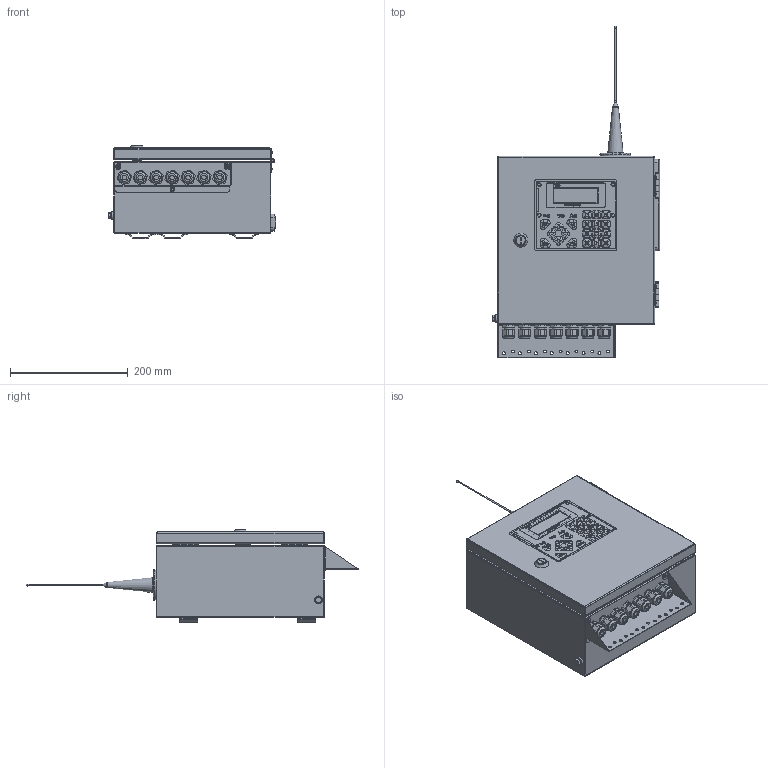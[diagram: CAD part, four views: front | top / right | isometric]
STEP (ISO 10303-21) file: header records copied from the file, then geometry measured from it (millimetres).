
FILE_DESCRIPTION(('STEP AP214'), '1');
FILE_NAME('023.000.000 ÑÁ Ñèñòåìíûé áëîê', '2015-07-24T11:53:29', (' '), (''), 'ASCON STEP Converter 1.3', 'ASCON Math Kernel', '');
FILE_SCHEMA(('AUTOMOTIVE_DESIGN { 1 0 10303 214 3 1 1}'));
Length unit declared in the file: millimetre
Products named in the file (60): 7; 8; 9; 10; 11; 12; 13; 14; 15; 16; 17; 18; 19; 20; 21; 22; 23; 24; 25; 26; 27; 28; 29; 30; 31; 32; 33; 34; 35; 36; 37; 38; 39; 40; 41; 42; 43; 44; 45; 46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
Assembly tree (59 placements, depth 4):
  7
    8
      9
        10
        11
        12
        13
        14
        15
        16
        17
        18
        19
        20
      21
        22
        23
        24
        25
        26
      27
      28
      29
      30
      31
      32
      33
      34
      35
      36
      37
      38
      39
      40
      41
    42
    43
    44
    45
    46
    47
      48
      49
    50
      51
      52
    53
    54
    55
    56
    57
    58
    59
    60
    61
    62
    63
    64
    65
    66
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Bounding box: 284.59 x 563 x 159.29 mm (x, y, z)
Volume: 531351.3 mm3; surface area: 839002.2 mm2
Topology: 54 solids, 55 shells, 2828 faces, 7178 edges, 4566 vertices
Faces by surface type: plane 1469, cylinder 661, extrusion 508, cone 82, bspline 82, sphere 14, torus 12
Full cylindrical faces by diameter (mm): 0.463 x1, 1.17 x1, 1.482 x1, 1.5 x16, 2 x3, 2.483 x1, 2.5 x16, 2.8 x1, 3 x11, 3.2 x18, 3.25 x1, 3.3 x17, 3.5 x8, 3.8 x2, 4 x4, 4.2 x2, 4.5 x11, 5 x19, 5.2 x24, 5.38 x5, 5.39 x4, 6 x1, 6.8 x4, 7 x2, 7.12 x1, 8 x8, 8.1 x1, 12.6 x7, 13.2 x1, 14 x7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
Entity records: 126777 total; most frequent: CARTESIAN_POINT 52147, ORIENTED_EDGE 13636, DIRECTION 11678, EDGE_CURVE 6818, VERTEX_POINT 4565, VECTOR 4460, LINE 3952, AXIS2_PLACEMENT_3D 3609
